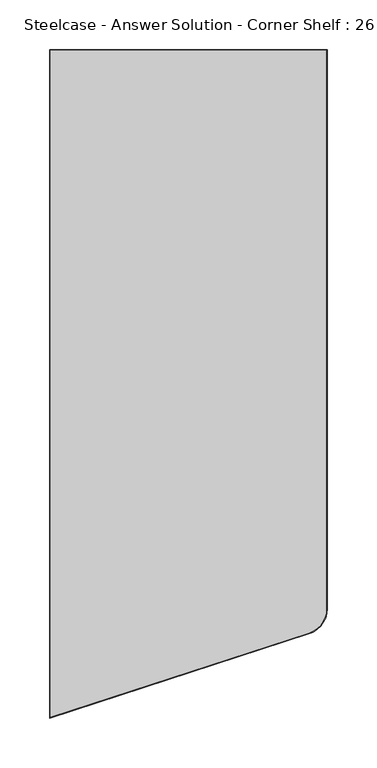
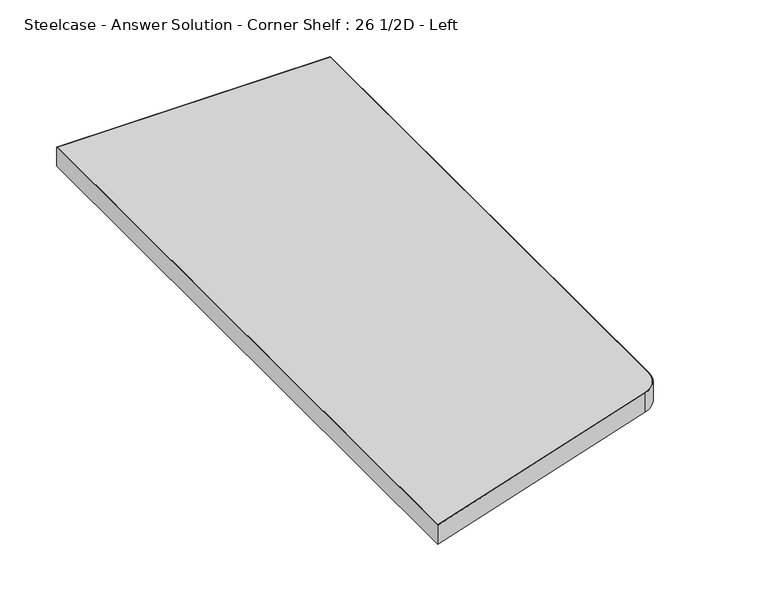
"""IFC4 building model written with IfcOpenShell, lengths in millimetres: furniture geometry, Steelcase - Answer Solution - Corner Shelf : 26 1/2D - Left."""

from ifc_helpers import new_model, si_unit, point, frame, frame_2d, origin, place, context, project, spatial, polyline, circle_curve, trimmed, segment, composite_curve, outline, extrude, source, transform, mapped, element, save


def steelcase_answer_solution_corner_shelf_26_1_2d_left_234be44d(model_context):
    return source(origin(), model_context, "Body", "SweptSolid", [
        extrude(outline(composite_curve([segment(polyline([(443.738, 172.212), (443.738, -389.8540688)]), True, "CONTINUOUS"), segment(trimmed(circle_curve(frame_2d((417.83, -389.8540688)), 25.908), [point((443.738, -389.8540688))], [point((425.8345824, -414.4945056))], False, "CARTESIAN"), True, "CONTINUOUS"), segment(polyline([(425.8345824, -414.4945056), (165.862, -499.1130655), (165.862, 172.212), (443.738, 172.212)]), True, "CONTINUOUS")], self_intersect=False)), frame((0.0, 0.0, 723.9), z_axis=(0.0, 0.0, 1.0), x_axis=(1.0, 0.0, 0.0)), (0.0, 0.0, 1.0), 20.574),
        extrude(outline(composite_curve([segment(polyline([(426.0834994, -415.2607447), (165.0563438, -500.2225581), (165.0563438, 173.0176563), (444.5436563, 173.0176563), (444.5436563, -389.8540688)]), True, "CONTINUOUS"), segment(trimmed(circle_curve(frame_2d((417.83, -389.8540688)), 26.7136563), [point((444.5436563, -389.8540688))], [point((426.0834994, -415.2607447))], False, "CARTESIAN"), True, "CONTINUOUS")], self_intersect=False), holes=[composite_curve([segment(polyline([(443.738, 172.212), (165.862, 172.212), (165.862, -499.1130655), (425.8345824, -414.4945056)]), True, "CONTINUOUS"), segment(trimmed(circle_curve(frame_2d((417.83, -389.8540688)), 25.908), [point((425.8345824, -414.4945056))], [point((443.738, -389.8540688))], True, "CARTESIAN"), True, "CONTINUOUS"), segment(polyline([(443.738, -389.8540688), (443.738, 172.212)]), True, "CONTINUOUS")], self_intersect=False)]), frame((0.0, 0.0, 723.9), z_axis=(0.0, 0.0, 1.0), x_axis=(1.0, 0.0, 0.0)), (0.0, 0.0, 1.0), 20.574),
    ])


if __name__ == "__main__":
    model = new_model("IFC4")
    model_context = context("Model", 3, world=origin())
    ifc_project = project(units=[si_unit("LENGTHUNIT", "METRE", prefix="MILLI")], contexts=[model_context])
    site = spatial("IfcSite", under=ifc_project)
    building = spatial("IfcBuilding", under=site)
    placement = place(None, origin())
    steelcase_answer_solution_corner_shelf_26_1_2d_left_shape = steelcase_answer_solution_corner_shelf_26_1_2d_left_234be44d(model_context)
    element("IfcFurniture", 1, ObjectType="Steelcase - Answer Solution - Corner Shelf : 26 1/2D - Left", at=placement, inside=building, context=model_context, shape_type="MappedRepresentation", body=[
        mapped(steelcase_answer_solution_corner_shelf_26_1_2d_left_shape, transform((0.0, 0.0, 0.0), x_axis=(1.0, 0.0, 0.0), y_axis=(0.0, 1.0, 0.0), z_axis=(0.0, 0.0, 1.0))),
    ])
    save(model, "model.ifc")
